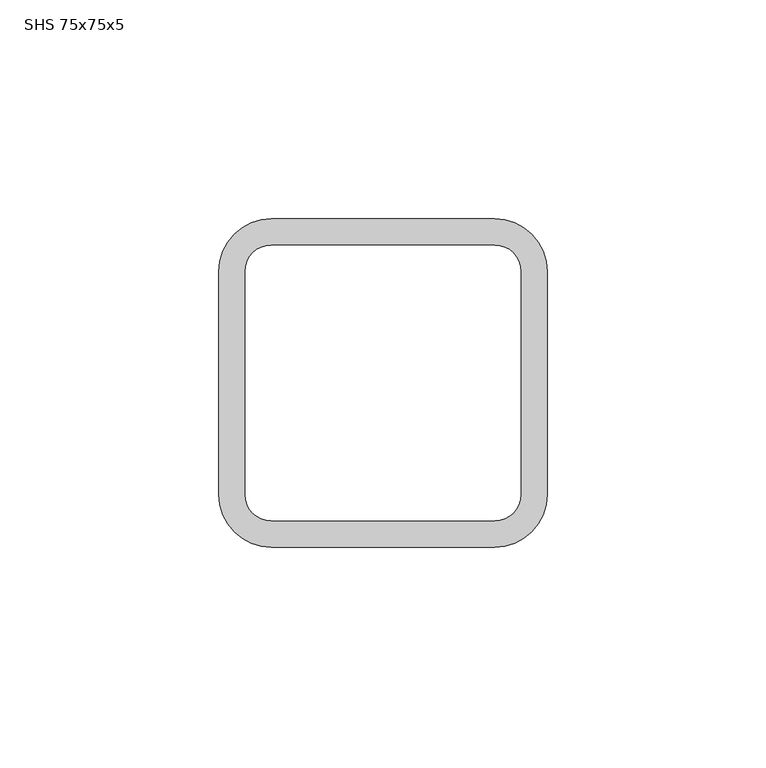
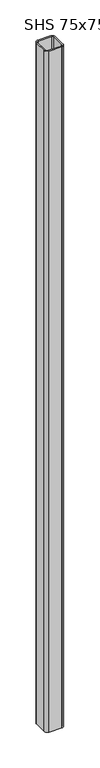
"""IFC4 building model written with IfcOpenShell, lengths in millimetres: column geometry, NIA_ST_CLMN_RHS-Rectangular Hollow Section-Column : SHS 75x75x5."""

from ifc_helpers import new_model, si_unit, point, frame_2d, origin, origin_with_axes, place, context, project, spatial, polyline, circle_curve, trimmed, segment, composite_curve, outline, extrude, source, transform, mapped, element, save


def shs_75x75x5_c6d00cb3(model_context):
    return source(origin(), model_context, "Body", "SweptSolid", [
        extrude(outline(composite_curve([segment(trimmed(circle_curve(frame_2d((25.5, 25.5)), 12.0), [point((25.5, 37.5))], [point((37.5, 25.5))], False, "CARTESIAN"), True, "CONTINUOUS"), segment(polyline([(37.5, 25.5), (37.5, -25.5)]), True, "CONTINUOUS"), segment(trimmed(circle_curve(frame_2d((25.5, -25.5)), 12.0), [point((37.5, -25.5))], [point((25.5, -37.5))], False, "CARTESIAN"), True, "CONTINUOUS"), segment(polyline([(25.5, -37.5), (-25.5, -37.5)]), True, "CONTINUOUS"), segment(trimmed(circle_curve(frame_2d((-25.5, -25.5)), 12.0), [point((-25.5, -37.5))], [point((-37.5, -25.5))], False, "CARTESIAN"), True, "CONTINUOUS"), segment(polyline([(-37.5, -25.5), (-37.5, 25.5)]), True, "CONTINUOUS"), segment(trimmed(circle_curve(frame_2d((-25.5, 25.5)), 12.0), [point((-37.5, 25.5))], [point((-25.5, 37.5))], False, "CARTESIAN"), True, "CONTINUOUS"), segment(polyline([(-25.5, 37.5), (25.5, 37.5)]), True, "CONTINUOUS")], self_intersect=False), holes=[composite_curve([segment(polyline([(25.5, 31.5), (-25.5, 31.5)]), True, "CONTINUOUS"), segment(trimmed(circle_curve(frame_2d((-25.5, 25.5)), 6.0), [point((-25.5, 31.5))], [point((-31.5, 25.5))], True, "CARTESIAN"), True, "CONTINUOUS"), segment(polyline([(-31.5, 25.5), (-31.5, -25.5)]), True, "CONTINUOUS"), segment(trimmed(circle_curve(frame_2d((-25.5, -25.5)), 6.0), [point((-31.5, -25.5))], [point((-25.5, -31.5))], True, "CARTESIAN"), True, "CONTINUOUS"), segment(polyline([(-25.5, -31.5), (25.5, -31.5)]), True, "CONTINUOUS"), segment(trimmed(circle_curve(frame_2d((25.5, -25.5)), 6.0), [point((25.5, -31.5))], [point((31.5, -25.5))], True, "CARTESIAN"), True, "CONTINUOUS"), segment(polyline([(31.5, -25.5), (31.5, 25.5)]), True, "CONTINUOUS"), segment(trimmed(circle_curve(frame_2d((25.5, 25.5)), 6.0), [point((31.5, 25.5))], [point((25.5, 31.5))], True, "CARTESIAN"), True, "CONTINUOUS")], self_intersect=False)]), origin_with_axes(), (0.0, 0.0, 1.0), 2819.4),
    ])


if __name__ == "__main__":
    model = new_model("IFC4")
    model_context = context("Model", 3, world=origin())
    ifc_project = project(units=[si_unit("LENGTHUNIT", "METRE", prefix="MILLI")], contexts=[model_context])
    site = spatial("IfcSite", under=ifc_project)
    building = spatial("IfcBuilding", under=site)
    placement = place(None, origin())
    shs_75x75x5_shape = shs_75x75x5_c6d00cb3(model_context)
    element("IfcColumn", 1, ObjectType="NIA_ST_CLMN_RHS-Rectangular Hollow Section-Column : SHS 75x75x5", at=placement, inside=building, context=model_context, shape_type="MappedRepresentation", body=[
        mapped(shs_75x75x5_shape, transform((0.0, 0.0, 0.0), x_axis=(1.0, 0.0, 0.0), y_axis=(0.0, 1.0, 0.0), z_axis=(0.0, 0.0, 1.0))),
    ])
    save(model, "model.ifc")
